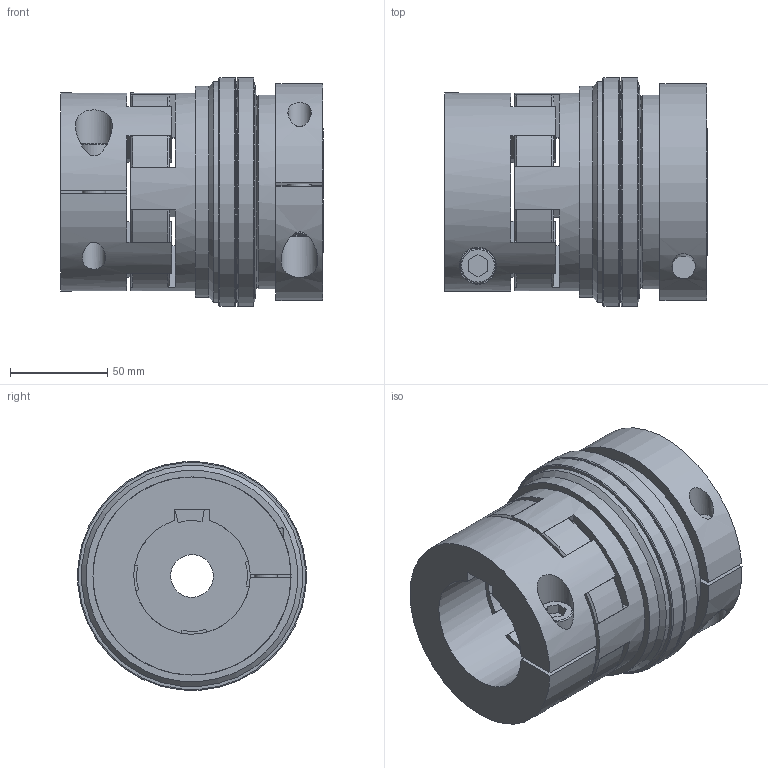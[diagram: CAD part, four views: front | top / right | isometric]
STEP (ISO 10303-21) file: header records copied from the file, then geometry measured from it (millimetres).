
FILE_DESCRIPTION(/* description */ ('STEP AP214'),/* implementation_level */ '2;1');
FILE_NAME(/* name */ 'C:\Diequa Files\DieQua Coupling\TAE\STP\TAE.300.AB.WD.#.#.stp',/* time_stamp */ '2019-04-26T14:31:50-05:00',/* author */ ('DiequaCAD'),/* organization */ (''),/* preprocessor_version */ 'ST-DEVELOPER v18',/* originating_system */ 'Autodesk Inventor 2020',/* authorisation */ ' ');
FILE_SCHEMA (('AUTOMOTIVE_DESIGN { 1 0 10303 214 3 1 1 }'));
Length unit declared in the file: millimetre
Products named in the file (1): SLE_300_135_W_60_PFN_60_PFN_275_200_350_16
Bounding box: 135 x 117.7 x 117.7 mm (x, y, z)
Volume: 794511.1 mm3; surface area: 134308.8 mm2
Topology: 10 solids, 10 shells, 188 faces, 486 edges, 333 vertices
Faces by surface type: plane 114, cylinder 46, cone 21, torus 7
Full cylindrical faces by diameter (mm): 12 x4, 12.5 x2, 18 x2, 19 x2, 22 x1, 100 x1, 102 x1, 109 x1, 114 x2, 118 x2
Entity records: 6028 total; most frequent: CARTESIAN_POINT 1169, DIRECTION 1041, ORIENTED_EDGE 972, EDGE_CURVE 486, AXIS2_PLACEMENT_3D 375, VERTEX_POINT 333, LINE 291, VECTOR 291
